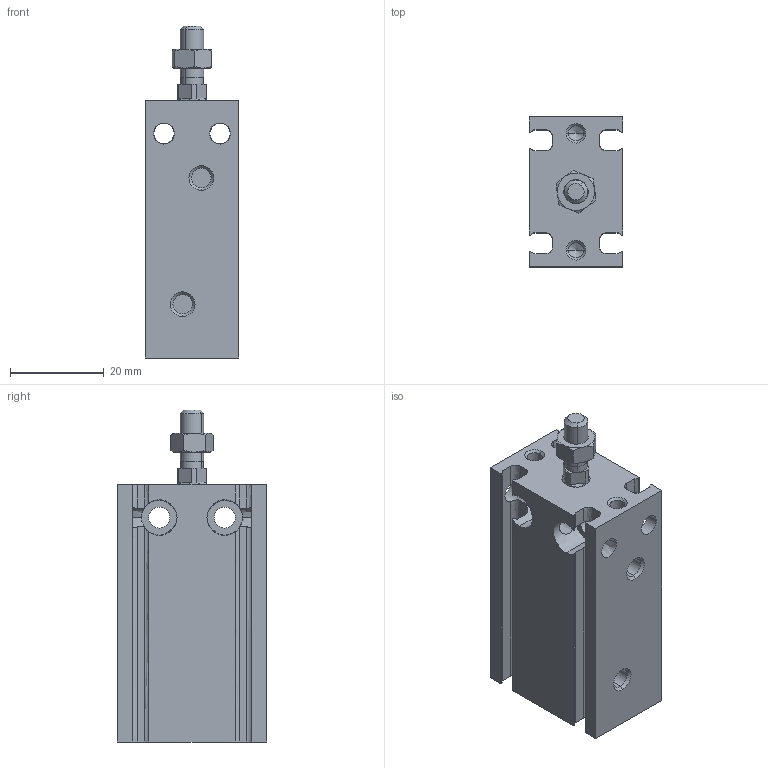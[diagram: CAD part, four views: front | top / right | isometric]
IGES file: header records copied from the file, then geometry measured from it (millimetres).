
Global section: file name: No Iges File Name specified; native system: Autodesk Inventor 2011; preprocessor: AutoDesk Inventor Iges Exporter R2011; author: airolcr1; date: 20110614.145505; units: millimetre
Bounding box: 20 x 32 x 71 mm (x, y, z)
Volume: 28417.4 mm3; surface area: 12174.9 mm2
Topology: 3 solids, 3 shells, 184 faces, 494 edges, 314 vertices
Faces by surface type: bspline 82, plane 54, revolution 28, cone 14, cylinder 6
